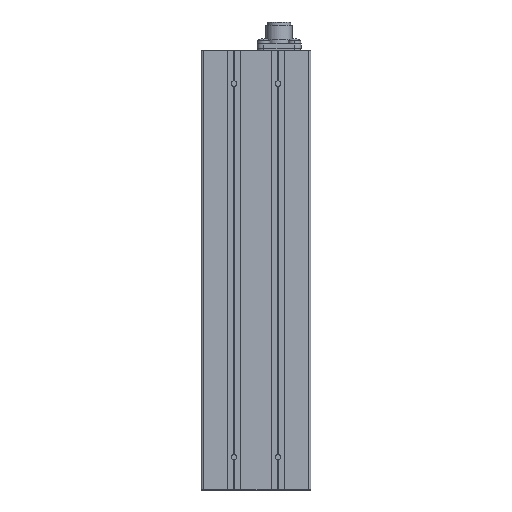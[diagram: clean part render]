
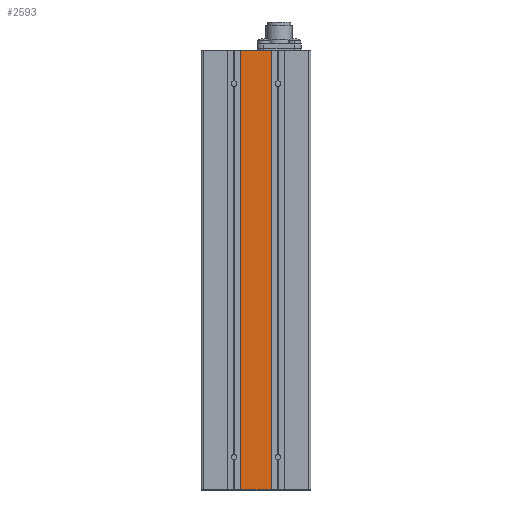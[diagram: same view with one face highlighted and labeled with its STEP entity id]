
A CAD part, front view. The second image highlights one B-rep face of the part: STEP entity #2593.
In plain terms, the highlighted planar face has unit normal (0, -1, 0).
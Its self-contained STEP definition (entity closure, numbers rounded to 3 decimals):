
#1997 = VERTEX_POINT ( 'NONE', #24000 ) ;
#2073 = VERTEX_POINT ( 'NONE', #24076 ) ;
#2593 = ADVANCED_FACE ( 'NONE', ( #26431 ), #26432, .F. ) ;
#3881 = EDGE_CURVE ( 'NONE', #1997, #2073, #24902, .T. ) ;
#4104 = EDGE_CURVE ( 'NONE', #22214, #1997, #19804, .T. ) ;
#4105 = EDGE_CURVE ( 'NONE', #22214, #22223, #19807, .T. ) ;
#4106 = EDGE_CURVE ( 'NONE', #22223, #2073, #19810, .T. ) ;
#8331 = ORIENTED_EDGE ( 'NONE', *, *, #3881, .T. ) ;
#16723 = EDGE_LOOP ( 'NONE', ( #8331, #16875, #17028, #16991 ) ) ;
#16875 = ORIENTED_EDGE ( 'NONE', *, *, #4106, .F. ) ;
#16991 = ORIENTED_EDGE ( 'NONE', *, *, #4104, .T. ) ;
#17028 = ORIENTED_EDGE ( 'NONE', *, *, #4105, .F. ) ;
#19804 = LINE ( 'NONE', #19805, #29504 ) ;
#19805 = CARTESIAN_POINT ( 'NONE',  ( 7., -10., -200. ) ) ;
#19806 = DIRECTION ( 'NONE',  ( 0., 0., 1. ) ) ;
#19807 = LINE ( 'NONE', #19808, #29500 ) ;
#19808 = CARTESIAN_POINT ( 'NONE',  ( 7., -10., -200. ) ) ;
#19809 = DIRECTION ( 'NONE',  ( -1., 0., 0. ) ) ;
#19810 = LINE ( 'NONE', #19811, #29494 ) ;
#19811 = CARTESIAN_POINT ( 'NONE',  ( -7., -10., -200. ) ) ;
#19812 = DIRECTION ( 'NONE',  ( 0., 0., 1. ) ) ;
#22214 = VERTEX_POINT ( 'NONE', #30775 ) ;
#22223 = VERTEX_POINT ( 'NONE', #30784 ) ;
#24000 = CARTESIAN_POINT ( 'NONE',  ( 7., -10., 0. ) ) ;
#24076 = CARTESIAN_POINT ( 'NONE',  ( -7., -10., 0. ) ) ;
#24873 = CARTESIAN_POINT ( 'NONE',  ( 7., -10., 0. ) ) ;
#24902 = LINE ( 'NONE', #24873, #28331 ) ;
#24910 = DIRECTION ( 'NONE',  ( -1., 0., 0. ) ) ;
#26427 = CARTESIAN_POINT ( 'NONE',  ( 7., -10., -200. ) ) ;
#26431 = FACE_OUTER_BOUND ( 'NONE', #16723, .T. ) ;
#26432 = PLANE ( 'NONE',  #29257 ) ;
#26435 = DIRECTION ( 'NONE',  ( 0., 1., 0. ) ) ;
#26436 = DIRECTION ( 'NONE',  ( 0., 0., -1. ) ) ;
#28331 = VECTOR ( 'NONE', #24910, 1000. ) ;
#29257 = AXIS2_PLACEMENT_3D ( 'NONE', #26427, #26435, #26436 ) ;
#29494 = VECTOR ( 'NONE', #19812, 1000. ) ;
#29500 = VECTOR ( 'NONE', #19809, 1000. ) ;
#29504 = VECTOR ( 'NONE', #19806, 1000. ) ;
#30775 = CARTESIAN_POINT ( 'NONE',  ( 7., -10., -200. ) ) ;
#30784 = CARTESIAN_POINT ( 'NONE',  ( -7., -10., -200. ) ) ;
